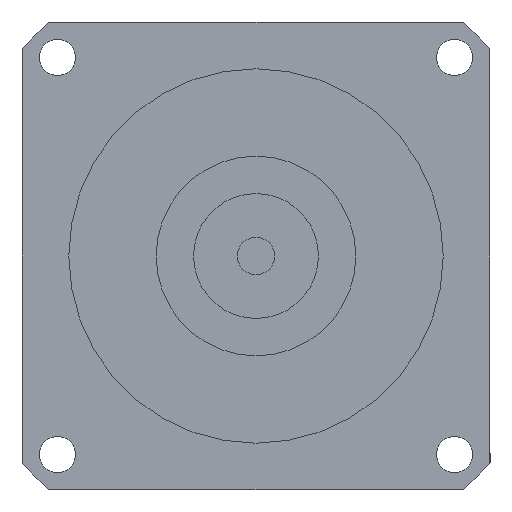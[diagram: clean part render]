
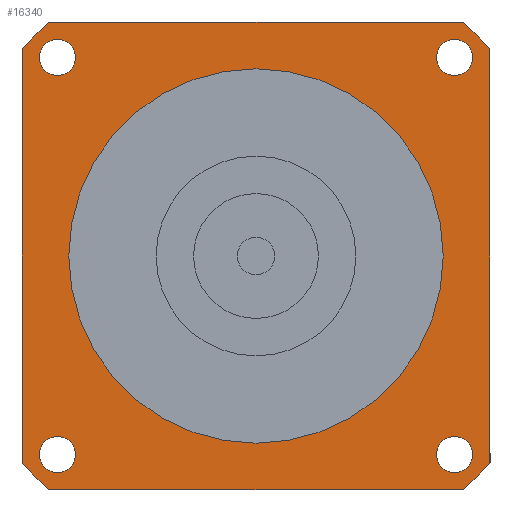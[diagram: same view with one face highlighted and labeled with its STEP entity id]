
A CAD part, left-side view. The second image highlights one B-rep face of the part: STEP entity #16340.
In plain terms, the highlighted planar face has unit normal (-1, 0, 0) as drawn and (0, 0, -1) by its records, which use the part's own axes.
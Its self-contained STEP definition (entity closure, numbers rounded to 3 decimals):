
#14500=CARTESIAN_POINT('',(-28.92,-31.82,-93.));
#14510=VERTEX_POINT('',#14500);
#14590=CARTESIAN_POINT('',(-34.72,-31.82,-93.));
#14600=VERTEX_POINT('',#14590);
#14630=CARTESIAN_POINT('',(-31.82,-31.82,-93.));
#14640=DIRECTION('',(0.,0.,-1.));
#14650=DIRECTION('',(0.,-1.,0.));
#14660=AXIS2_PLACEMENT_3D('',#14630,#14640,#14650);
#14670=CIRCLE('',#14660,2.9);
#14680=CARTESIAN_POINT('',(-31.82,-34.72,-93.));
#14690=VERTEX_POINT('',#14680);
#14700=EDGE_CURVE('',#14690,#14600,#14670,.T.);
#14720=EDGE_CURVE('',#14510,#14690,#14670,.T.);
#14770=CARTESIAN_POINT('',(-37.5,37.5,-93.));
#14780=DIRECTION('',(0.,0.,1.));
#14790=DIRECTION('',(-1.,0.,0.));
#14800=AXIS2_PLACEMENT_3D('',#14770,#14780,#14790);
#14810=PLANE('',#14800);
#14820=CARTESIAN_POINT('',(31.82,-31.82,-93.));
#14830=DIRECTION('',(0.,0.,-1.));
#14840=DIRECTION('',(1.,0.,0.));
#14850=AXIS2_PLACEMENT_3D('',#14820,#14830,#14840);
#14860=CIRCLE('',#14850,2.9);
#14870=CARTESIAN_POINT('',(34.72,-31.82,-93.));
#14880=VERTEX_POINT('',#14870);
#14890=CARTESIAN_POINT('',(31.82,-34.72,-93.));
#14900=VERTEX_POINT('',#14890);
#14910=EDGE_CURVE('',#14880,#14900,#14860,.T.);
#14920=ORIENTED_EDGE('',*,*,#14910,.F.);
#14930=CARTESIAN_POINT('',(31.82,-28.92,-93.));
#14940=VERTEX_POINT('',#14930);
#14950=EDGE_CURVE('',#14900,#14940,#14860,.T.);
#14960=ORIENTED_EDGE('',*,*,#14950,.F.);
#14970=EDGE_CURVE('',#14940,#14880,#14860,.T.);
#14980=ORIENTED_EDGE('',*,*,#14970,.F.);
#14990=EDGE_LOOP('',(#14980,#14960,#14920));
#15000=FACE_BOUND('',#14990,.T.);
#15010=CARTESIAN_POINT('',(31.82,31.82,-93.));
#15020=DIRECTION('',(0.,0.,-1.));
#15030=DIRECTION('',(0.,1.,0.));
#15040=AXIS2_PLACEMENT_3D('',#15010,#15020,#15030);
#15050=CIRCLE('',#15040,2.9);
#15060=CARTESIAN_POINT('',(31.82,34.72,-93.));
#15070=VERTEX_POINT('',#15060);
#15080=CARTESIAN_POINT('',(34.72,31.82,-93.));
#15090=VERTEX_POINT('',#15080);
#15100=EDGE_CURVE('',#15070,#15090,#15050,.T.);
#15110=ORIENTED_EDGE('',*,*,#15100,.F.);
#15120=CARTESIAN_POINT('',(28.92,31.82,-93.));
#15130=VERTEX_POINT('',#15120);
#15140=EDGE_CURVE('',#15090,#15130,#15050,.T.);
#15150=ORIENTED_EDGE('',*,*,#15140,.F.);
#15160=EDGE_CURVE('',#15130,#15070,#15050,.T.);
#15170=ORIENTED_EDGE('',*,*,#15160,.F.);
#15180=EDGE_LOOP('',(#15170,#15150,#15110));
#15190=FACE_BOUND('',#15180,.T.);
#15200=CARTESIAN_POINT('',(-31.82,31.82,-93.));
#15210=DIRECTION('',(0.,0.,-1.));
#15220=DIRECTION('',(-1.,0.,0.));
#15230=AXIS2_PLACEMENT_3D('',#15200,#15210,#15220);
#15240=CIRCLE('',#15230,2.9);
#15250=CARTESIAN_POINT('',(-34.72,31.82,-93.));
#15260=VERTEX_POINT('',#15250);
#15270=CARTESIAN_POINT('',(-31.82,34.72,-93.));
#15280=VERTEX_POINT('',#15270);
#15290=EDGE_CURVE('',#15260,#15280,#15240,.T.);
#15300=ORIENTED_EDGE('',*,*,#15290,.F.);
#15310=CARTESIAN_POINT('',(-31.82,28.92,-93.));
#15320=VERTEX_POINT('',#15310);
#15330=EDGE_CURVE('',#15280,#15320,#15240,.T.);
#15340=ORIENTED_EDGE('',*,*,#15330,.F.);
#15350=EDGE_CURVE('',#15320,#15260,#15240,.T.);
#15360=ORIENTED_EDGE('',*,*,#15350,.F.);
#15370=EDGE_LOOP('',(#15360,#15340,#15300));
#15380=FACE_BOUND('',#15370,.T.);
#15390=ORIENTED_EDGE('',*,*,#14700,.F.);
#15400=EDGE_CURVE('',#14600,#14510,#14670,.T.);
#15410=ORIENTED_EDGE('',*,*,#15400,.F.);
#15420=ORIENTED_EDGE('',*,*,#14720,.F.);
#15430=EDGE_LOOP('',(#15420,#15410,#15390));
#15440=FACE_BOUND('',#15430,.T.);
#15450=CARTESIAN_POINT('',(0.,0.,
-93.));
#15460=DIRECTION('',(0.,0.,1.));
#15470=DIRECTION('',(0.,-1.,0.));
#15480=AXIS2_PLACEMENT_3D('',#15450,#15460,#15470);
#15490=CIRCLE('',#15480,50.);
#15500=CARTESIAN_POINT('',(-37.5,-33.072,-93.));
#15510=VERTEX_POINT('',#15500);
#15520=CARTESIAN_POINT('',(-33.072,-37.5,-93.));
#15530=VERTEX_POINT('',#15520);
#15540=EDGE_CURVE('',#15510,#15530,#15490,.T.);
#15550=ORIENTED_EDGE('',*,*,#15540,.F.);
#15560=CARTESIAN_POINT('',(-37.5,-37.5,-93.));
#15570=DIRECTION('',(1.,0.,0.));
#15580=VECTOR('',#15570,1000.);
#15590=LINE('',#15560,#15580);
#15600=CARTESIAN_POINT('',(33.072,-37.5,-93.));
#15610=VERTEX_POINT('',#15600);
#15620=EDGE_CURVE('',#15530,#15610,#15590,.T.);
#15630=ORIENTED_EDGE('',*,*,#15620,.F.);
#15640=CARTESIAN_POINT('',(0.,0.,
-93.));
#15650=DIRECTION('',(0.,0.,1.));
#15660=DIRECTION('',(0.,-1.,0.));
#15670=AXIS2_PLACEMENT_3D('',#15640,#15650,#15660);
#15680=CIRCLE('',#15670,50.);
#15690=CARTESIAN_POINT('',(37.5,-33.072,-93.));
#15700=VERTEX_POINT('',#15690);
#15710=EDGE_CURVE('',#15610,#15700,#15680,.T.);
#15720=ORIENTED_EDGE('',*,*,#15710,.F.);
#15730=CARTESIAN_POINT('',(37.5,-37.5,-93.));
#15740=DIRECTION('',(0.,1.,0.));
#15750=VECTOR('',#15740,1000.);
#15760=LINE('',#15730,#15750);
#15770=CARTESIAN_POINT('',(37.5,33.072,-93.));
#15780=VERTEX_POINT('',#15770);
#15790=EDGE_CURVE('',#15700,#15780,#15760,.T.);
#15800=ORIENTED_EDGE('',*,*,#15790,.F.);
#15810=CARTESIAN_POINT('',(0.,0.,
-93.));
#15820=DIRECTION('',(0.,0.,1.));
#15830=DIRECTION('',(0.,-1.,0.));
#15840=AXIS2_PLACEMENT_3D('',#15810,#15820,#15830);
#15850=CIRCLE('',#15840,50.);
#15860=CARTESIAN_POINT('',(33.072,37.5,-93.));
#15870=VERTEX_POINT('',#15860);
#15880=EDGE_CURVE('',#15780,#15870,#15850,.T.);
#15890=ORIENTED_EDGE('',*,*,#15880,.F.);
#15900=CARTESIAN_POINT('',(37.5,37.5,-93.));
#15910=DIRECTION('',(-1.,0.,0.));
#15920=VECTOR('',#15910,1000.);
#15930=LINE('',#15900,#15920);
#15940=CARTESIAN_POINT('',(-33.072,37.5,-93.));
#15950=VERTEX_POINT('',#15940);
#15960=EDGE_CURVE('',#15870,#15950,#15930,.T.);
#15970=ORIENTED_EDGE('',*,*,#15960,.F.);
#15980=CARTESIAN_POINT('',(0.,0.,
-93.));
#15990=DIRECTION('',(0.,0.,1.));
#16000=DIRECTION('',(0.,-1.,0.));
#16010=AXIS2_PLACEMENT_3D('',#15980,#15990,#16000);
#16020=CIRCLE('',#16010,50.);
#16030=CARTESIAN_POINT('',(-37.5,33.072,-93.));
#16040=VERTEX_POINT('',#16030);
#16050=EDGE_CURVE('',#15950,#16040,#16020,.T.);
#16060=ORIENTED_EDGE('',*,*,#16050,.F.);
#16070=CARTESIAN_POINT('',(-37.5,37.5,-93.));
#16080=DIRECTION('',(0.,-1.,0.));
#16090=VECTOR('',#16080,1000.);
#16100=LINE('',#16070,#16090);
#16110=EDGE_CURVE('',#16040,#15510,#16100,.T.);
#16120=ORIENTED_EDGE('',*,*,#16110,.F.);
#16130=EDGE_LOOP('',(#16120,#16060,#15970,#15890,#15800,#15720,#15630,
#15550));
#16140=FACE_OUTER_BOUND('',#16130,.T.);
#16150=CARTESIAN_POINT('',(0.,0.,
-93.));
#16160=DIRECTION('',(0.,0.,1.));
#16170=DIRECTION('',(0.,-1.,0.));
#16180=AXIS2_PLACEMENT_3D('',#16150,#16160,#16170);
#16190=CIRCLE('',#16180,30.);
#16200=CARTESIAN_POINT('',(30.,0.,-93.));
#16210=VERTEX_POINT('',#16200);
#16220=CARTESIAN_POINT('',(-30.,0.,-93.));
#16230=VERTEX_POINT('',#16220);
#16240=EDGE_CURVE('',#16210,#16230,#16190,.T.);
#16250=ORIENTED_EDGE('',*,*,#16240,.T.);
#16260=CARTESIAN_POINT('',(0.,-30.,-93.));
#16270=VERTEX_POINT('',#16260);
#16280=EDGE_CURVE('',#16270,#16210,#16190,.T.);
#16290=ORIENTED_EDGE('',*,*,#16280,.T.);
#16300=EDGE_CURVE('',#16230,#16270,#16190,.T.);
#16310=ORIENTED_EDGE('',*,*,#16300,.T.);
#16320=EDGE_LOOP('',(#16310,#16290,#16250));
#16330=FACE_BOUND('',#16320,.T.);
#16340=ADVANCED_FACE('',(#15000,#15190,#15380,#15440,#16140,#16330),
#14810,.F.);
